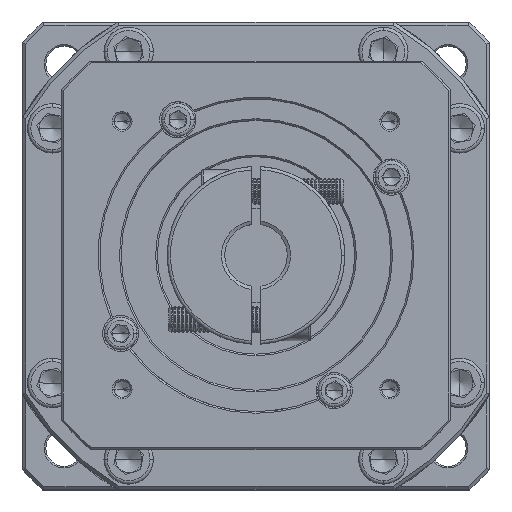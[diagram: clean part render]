
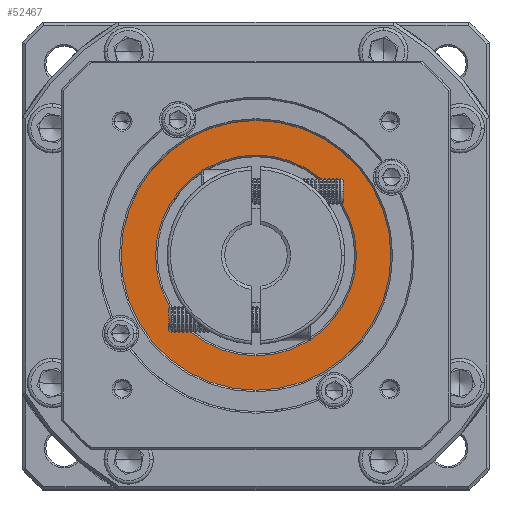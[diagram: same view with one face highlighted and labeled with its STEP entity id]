
A CAD part, top view. The second image highlights one B-rep face of the part: STEP entity #52467.
In plain terms, the highlighted planar face has unit normal (0, 0, 1).
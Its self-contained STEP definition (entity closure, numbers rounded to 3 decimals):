
#3754 = EDGE_LOOP ( 'NONE', ( #81389, #122809 ) ) ;
#4459 = VERTEX_POINT ( 'NONE', #10563 ) ;
#7544 = CIRCLE ( 'NONE', #128310, 41. ) ;
#10563 = CARTESIAN_POINT ( 'NONE',  ( -89.69, 40.51, 339.75 ) ) ;
#10761 = ORIENTED_EDGE ( 'NONE', *, *, #143740, .T. ) ;
#21117 = PLANE ( 'NONE',  #53136 ) ;
#23333 = AXIS2_PLACEMENT_3D ( 'NONE', #23961, #69335, #23463 ) ;
#23463 = DIRECTION ( 'NONE',  ( 1., 0., 0. ) ) ;
#23961 = CARTESIAN_POINT ( 'NONE',  ( -59.19, 40.51, 339.75 ) ) ;
#25080 = CARTESIAN_POINT ( 'NONE',  ( -59.19, 40.51, 339.75 ) ) ;
#31802 = CIRCLE ( 'NONE', #68461, 30.5 ) ;
#40090 = DIRECTION ( 'NONE',  ( 0., 0., -1. ) ) ;
#43737 = VERTEX_POINT ( 'NONE', #144821 ) ;
#45940 = ORIENTED_EDGE ( 'NONE', *, *, #100812, .T. ) ;
#51470 = DIRECTION ( 'NONE',  ( 1., 0., 0. ) ) ;
#52467 = ADVANCED_FACE ( 'NONE', ( #69265, #106337 ), #21117, .T. ) ;
#53136 = AXIS2_PLACEMENT_3D ( 'NONE', #56691, #67997, #66561 ) ;
#56691 = CARTESIAN_POINT ( 'NONE',  ( -59.19, 40.51, 339.75 ) ) ;
#59932 = CIRCLE ( 'NONE', #23333, 30.5 ) ;
#66561 = DIRECTION ( 'NONE',  ( 1., 0., 0. ) ) ;
#67997 = DIRECTION ( 'NONE',  ( 0., 0., 1. ) ) ;
#68461 = AXIS2_PLACEMENT_3D ( 'NONE', #96325, #40090, #51470 ) ;
#69265 = FACE_OUTER_BOUND ( 'NONE', #3754, .T. ) ;
#69335 = DIRECTION ( 'NONE',  ( 0., 0., -1. ) ) ;
#71758 = CARTESIAN_POINT ( 'NONE',  ( -28.69, 40.51, 339.75 ) ) ;
#74103 = DIRECTION ( 'NONE',  ( 1., 0., 0. ) ) ;
#79851 = DIRECTION ( 'NONE',  ( 1., 0., 0. ) ) ;
#81389 = ORIENTED_EDGE ( 'NONE', *, *, #88540, .T. ) ;
#88540 = EDGE_CURVE ( 'NONE', #122439, #43737, #106449, .T. ) ;
#96325 = CARTESIAN_POINT ( 'NONE',  ( -59.19, 40.51, 339.75 ) ) ;
#100812 = EDGE_CURVE ( 'NONE', #113921, #4459, #59932, .T. ) ;
#101470 = EDGE_CURVE ( 'NONE', #43737, #122439, #7544, .T. ) ;
#104623 = AXIS2_PLACEMENT_3D ( 'NONE', #25080, #136483, #79851 ) ;
#106337 = FACE_BOUND ( 'NONE', #124808, .T. ) ;
#106449 = CIRCLE ( 'NONE', #104623, 41. ) ;
#107626 = CARTESIAN_POINT ( 'NONE',  ( -59.19, 40.51, 339.75 ) ) ;
#113921 = VERTEX_POINT ( 'NONE', #71758 ) ;
#122439 = VERTEX_POINT ( 'NONE', #130853 ) ;
#122809 = ORIENTED_EDGE ( 'NONE', *, *, #101470, .T. ) ;
#124808 = EDGE_LOOP ( 'NONE', ( #45940, #10761 ) ) ;
#128310 = AXIS2_PLACEMENT_3D ( 'NONE', #107626, #142573, #74103 ) ;
#130853 = CARTESIAN_POINT ( 'NONE',  ( -18.19, 40.51, 339.75 ) ) ;
#136483 = DIRECTION ( 'NONE',  ( 0., 0., 1. ) ) ;
#142573 = DIRECTION ( 'NONE',  ( 0., 0., 1. ) ) ;
#143740 = EDGE_CURVE ( 'NONE', #4459, #113921, #31802, .T. ) ;
#144821 = CARTESIAN_POINT ( 'NONE',  ( -100.19, 40.51, 339.75 ) ) ;
